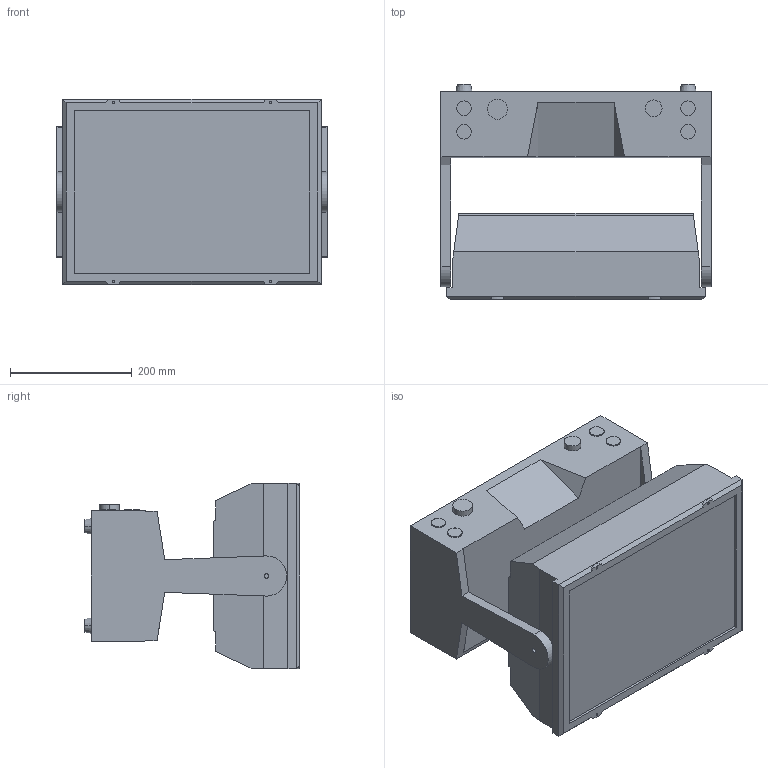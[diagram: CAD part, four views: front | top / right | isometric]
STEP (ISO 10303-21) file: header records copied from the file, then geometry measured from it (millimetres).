
FILE_DESCRIPTION((''),'2;1');
FILE_NAME('GLP-21283_ASM','2024-01-10T07:36:49',('MichaelSpatz'),(''),'CREO PARAMETRIC BY PTC INC, 2023073','CREO PARAMETRIC BY PTC INC, 2023073','');
FILE_SCHEMA(('AUTOMOTIVE_DESIGN { 1 0 10303 214 1 1 1 1 }'));
Length unit declared in the file: millimetre
Products named in the file (3): GLP-14378; GLP-14377; GLP-21283_ASM
Assembly tree (2 placements, depth 2):
  GLP-21283_ASM
    GLP-14378
    GLP-14377
Bounding box: 443.7 x 353.7 x 305 mm (x, y, z)
Volume: 26652878.6 mm3; surface area: 835169.5 mm2
Topology: 2 solids, 2 shells, 123 faces, 290 edges, 192 vertices
Faces by surface type: plane 73, cylinder 42, cone 8
Entity records: 4958 total; most frequent: DIRECTION 749, CARTESIAN_POINT 709, ORIENTED_EDGE 580, EDGE_CURVE 290, AXIS2_PLACEMENT_3D 258, VECTOR 224, LINE 224, VERTEX_POINT 192
